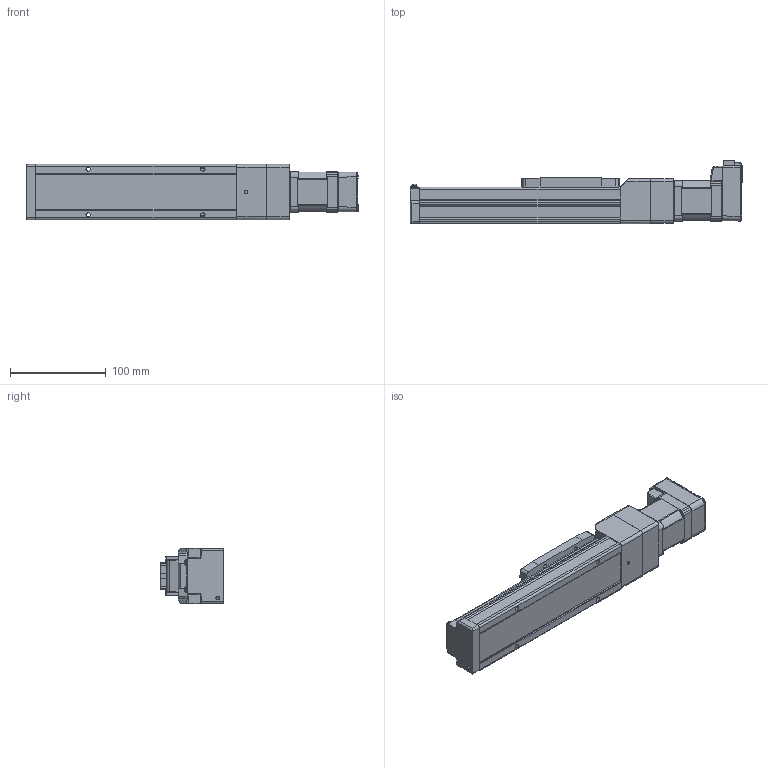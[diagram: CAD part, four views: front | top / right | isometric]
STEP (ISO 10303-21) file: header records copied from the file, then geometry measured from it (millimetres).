
FILE_DESCRIPTION (( 'STEP AP214' ), '1' );
FILE_NAME ('LEFS3(+)-25NM1Œû-100-17L.STEP', '2023-05-31T02:46:12', ( '' ), ( '' ), 'SwSTEP 2.0', 'SolidWorks 2019', '' );
FILE_SCHEMA (( 'AUTOMOTIVE_DESIGN' ));
Length unit declared in the file: millimetre
Products named in the file (5): CM3(+)-17L50A; LEFS3(+)-25NM1仩_BODY_100; LEFS3(+)-25NM1_TABLE; LEFS3(+)-25NM1_MOTOR Flange; LEFS3(+)-25NM1口-100-17L
Assembly tree (4 placements, depth 2):
  LEFS3(+)-25NM1口-100-17L
    LEFS3(+)-25NM1仩_BODY_100
    LEFS3(+)-25NM1_TABLE
    LEFS3(+)-25NM1_MOTOR Flange
    CM3(+)-17L50A
Bounding box: 347.3 x 66.75 x 58 mm (x, y, z)
Volume: 733154.6 mm3; surface area: 108528 mm2
Topology: 5 solids, 5 shells, 987 faces, 2542 edges, 1600 vertices
Faces by surface type: plane 513, cylinder 302, cone 83, torus 39, bspline 29, sphere 21
Entity records: 40084 total; most frequent: CARTESIAN_POINT 7320, ORIENTED_EDGE 5022, DIRECTION 4826, EDGE_CURVE 2511, AXIS2_PLACEMENT_3D 1618, VERTEX_POINT 1600, VECTOR 1590, LINE 1590
